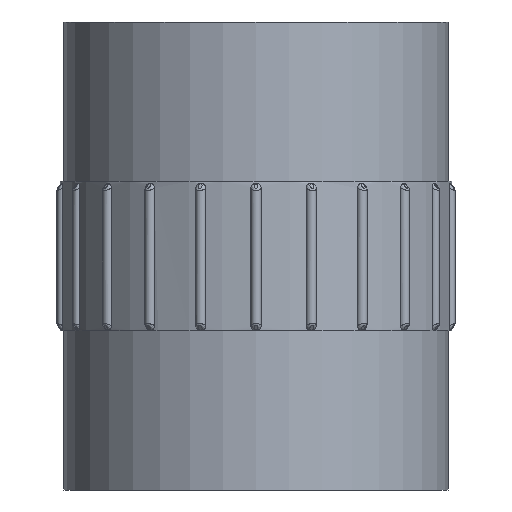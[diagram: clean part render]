
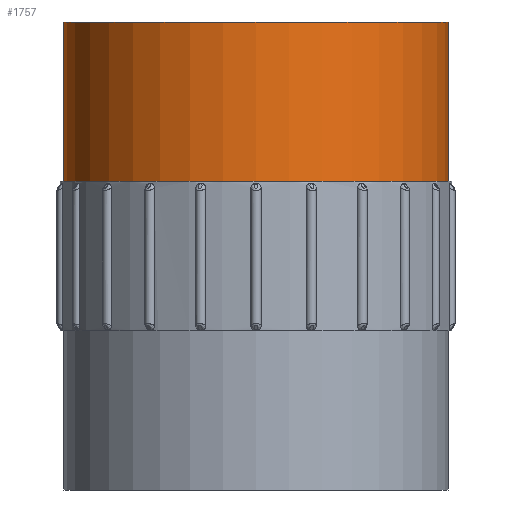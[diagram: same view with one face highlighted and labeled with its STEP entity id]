
A CAD part, front view. The second image highlights one B-rep face of the part: STEP entity #1757.
In plain terms, the highlighted cylindrical face has radius 30.15 mm (diameter 60.3 mm), a full revolution.
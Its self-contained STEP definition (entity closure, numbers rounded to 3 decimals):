
#353=FACE_OUTER_BOUND('',#471,.T.);
#471=EDGE_LOOP('',(#1179,#1180,#1181,#1182));
#615=LINE('',#2199,#663);
#663=VECTOR('',#1986,30.15);
#711=CIRCLE('',#1899,30.15);
#712=CIRCLE('',#1900,30.15);
#719=VERTEX_POINT('',#2196);
#720=VERTEX_POINT('',#2198);
#903=EDGE_CURVE('',#719,#719,#711,.T.);
#904=EDGE_CURVE('',#719,#720,#615,.T.);
#905=EDGE_CURVE('',#720,#720,#712,.T.);
#1179=ORIENTED_EDGE('',*,*,#903,.T.);
#1180=ORIENTED_EDGE('',*,*,#904,.T.);
#1181=ORIENTED_EDGE('',*,*,#905,.F.);
#1182=ORIENTED_EDGE('',*,*,#904,.F.);
#1731=CYLINDRICAL_SURFACE('',#1898,30.15);
#1757=ADVANCED_FACE('',(#353),#1731,.T.);
#1898=AXIS2_PLACEMENT_3D('',#2195,#1982,#1983);
#1899=AXIS2_PLACEMENT_3D('',#2197,#1984,#1985);
#1900=AXIS2_PLACEMENT_3D('',#2200,#1987,#1988);
#1982=DIRECTION('center_axis',(0.,0.,-1.));
#1983=DIRECTION('ref_axis',(-1.,0.,0.));
#1984=DIRECTION('center_axis',(0.,0.,-1.));
#1985=DIRECTION('ref_axis',(-1.,0.,0.));
#1986=DIRECTION('',(0.,0.,-1.));
#1987=DIRECTION('center_axis',(0.,0.,-1.));
#1988=DIRECTION('ref_axis',(1.,0.,0.));
#2195=CARTESIAN_POINT('Origin',(0.,0.,452.532));
#2196=CARTESIAN_POINT('',(30.15,0.,477.532));
#2197=CARTESIAN_POINT('Origin',(0.,0.,477.532));
#2198=CARTESIAN_POINT('',(30.15,0.,452.532));
#2199=CARTESIAN_POINT('',(30.15,0.,452.532));
#2200=CARTESIAN_POINT('Origin',(0.,0.,452.532));
